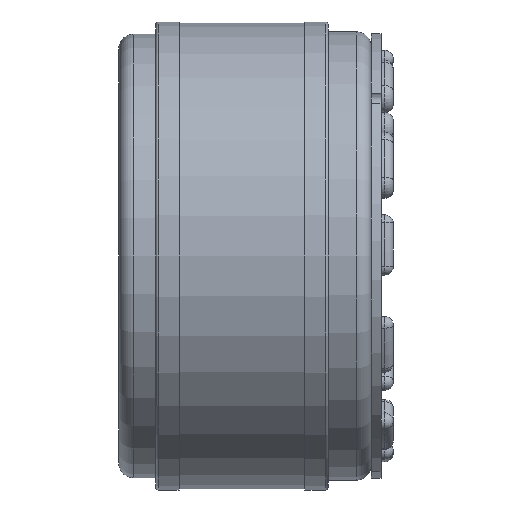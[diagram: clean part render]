
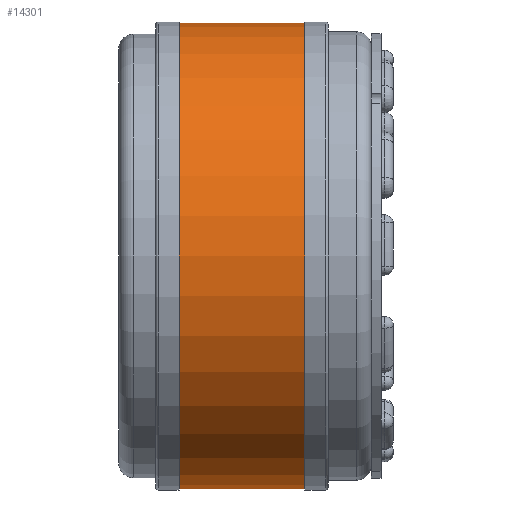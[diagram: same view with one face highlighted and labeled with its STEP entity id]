
A CAD part, front view. The second image highlights one B-rep face of the part: STEP entity #14301.
In plain terms, the highlighted cylindrical face has radius 18.9 mm (diameter 37.8 mm), a partial arc.
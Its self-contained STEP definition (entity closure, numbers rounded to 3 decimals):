
#6 = EDGE_CURVE ( 'NONE', #13565, #15833, #10620, .T. ) ;
#2044 = EDGE_CURVE ( 'NONE', #13565, #13398, #26525, .T. ) ;
#2350 = CARTESIAN_POINT ( 'NONE',  ( 0., 0., 0. ) ) ;
#2442 = DIRECTION ( 'NONE',  ( -1., 0., 0. ) ) ;
#4561 = VECTOR ( 'NONE', #9286, 1000. ) ;
#5121 = VERTEX_POINT ( 'NONE', #8923 ) ;
#5358 = AXIS2_PLACEMENT_3D ( 'NONE', #2350, #2442, #18781 ) ;
#5903 = ORIENTED_EDGE ( 'NONE', *, *, #6, .T. ) ;
#6638 = ORIENTED_EDGE ( 'NONE', *, *, #2044, .F. ) ;
#6967 = CARTESIAN_POINT ( 'NONE',  ( 0., 0., 18.9 ) ) ;
#7122 = CARTESIAN_POINT ( 'NONE',  ( 15.1, 0., 0. ) ) ;
#7899 = VECTOR ( 'NONE', #9547, 1000. ) ;
#8323 = FACE_OUTER_BOUND ( 'NONE', #23430, .T. ) ;
#8923 = CARTESIAN_POINT ( 'NONE',  ( 4.9, 0., 18.9 ) ) ;
#9286 = DIRECTION ( 'NONE',  ( -1., 0., 0. ) ) ;
#9440 = DIRECTION ( 'NONE',  ( 0., 0., 1. ) ) ;
#9547 = DIRECTION ( 'NONE',  ( -1., 0., 0. ) ) ;
#9739 = ORIENTED_EDGE ( 'NONE', *, *, #15537, .T. ) ;
#10620 = CIRCLE ( 'NONE', #18218, 18.9 ) ;
#10649 = CARTESIAN_POINT ( 'NONE',  ( 4.9, 0., 0. ) ) ;
#11474 = AXIS2_PLACEMENT_3D ( 'NONE', #10649, #26990, #13016 ) ;
#12053 = CARTESIAN_POINT ( 'NONE',  ( 4.9, 0., -18.9 ) ) ;
#12862 = CARTESIAN_POINT ( 'NONE',  ( 15.1, 0., 18.9 ) ) ;
#13016 = DIRECTION ( 'NONE',  ( 0., 0., 1. ) ) ;
#13398 = VERTEX_POINT ( 'NONE', #12053 ) ;
#13565 = VERTEX_POINT ( 'NONE', #26855 ) ;
#14301 = ADVANCED_FACE ( 'NONE', ( #8323 ), #26234, .T. ) ;
#15537 = EDGE_CURVE ( 'NONE', #15833, #5121, #29351, .T. ) ;
#15833 = VERTEX_POINT ( 'NONE', #12862 ) ;
#18218 = AXIS2_PLACEMENT_3D ( 'NONE', #7122, #23448, #9440 ) ;
#18781 = DIRECTION ( 'NONE',  ( 0., 0., 1. ) ) ;
#18879 = CARTESIAN_POINT ( 'NONE',  ( 0., 0., -18.9 ) ) ;
#20911 = ORIENTED_EDGE ( 'NONE', *, *, #21155, .F. ) ;
#21155 = EDGE_CURVE ( 'NONE', #13398, #5121, #28412, .T. ) ;
#23430 = EDGE_LOOP ( 'NONE', ( #6638, #5903, #9739, #20911 ) ) ;
#23448 = DIRECTION ( 'NONE',  ( -1., 0., 0. ) ) ;
#26234 = CYLINDRICAL_SURFACE ( 'NONE', #5358, 18.9 ) ;
#26525 = LINE ( 'NONE', #18879, #7899 ) ;
#26855 = CARTESIAN_POINT ( 'NONE',  ( 15.1, 0., -18.9 ) ) ;
#26990 = DIRECTION ( 'NONE',  ( -1., 0., 0. ) ) ;
#28412 = CIRCLE ( 'NONE', #11474, 18.9 ) ;
#29351 = LINE ( 'NONE', #6967, #4561 ) ;
